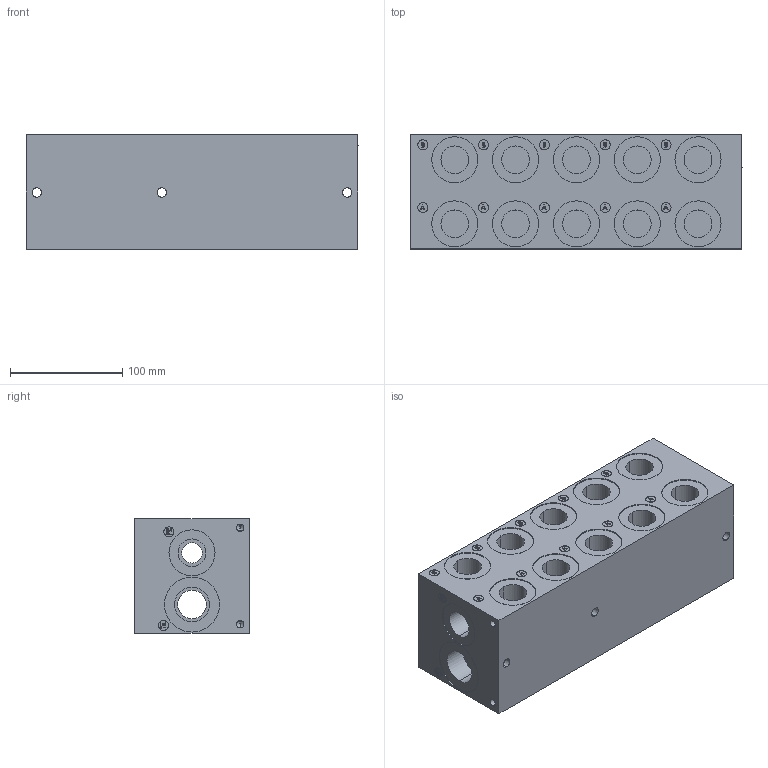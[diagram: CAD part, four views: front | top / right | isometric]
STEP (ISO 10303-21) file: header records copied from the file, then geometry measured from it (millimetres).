
FILE_DESCRIPTION (( 'STEP AP203' ), '1' );
FILE_NAME ('BMR-AHP03S2-05-1_Z.STEP', '2015-01-06T15:23:18', ( '' ), ( '' ), 'SwSTEP 2.0', 'SolidWorks 2014', '' );
FILE_SCHEMA (( 'CONFIG_CONTROL_DESIGN' ));
Length unit declared in the file: inch
Products named in the file (1): BMR-AHP03S2-05-1_Z
Bounding box: 295.4 x 101.6 x 101.6 mm (x, y, z)
Volume: 2668314.1 mm3; surface area: 213494.5 mm2
Topology: 1 solids, 1 shells, 683 faces, 1639 edges, 1011 vertices
Faces by surface type: plane 282, cylinder 238, cone 98, bspline 65
Entity records: 22872 total; most frequent: CARTESIAN_POINT 7405, DIRECTION 3125, ORIENTED_EDGE 3082, EDGE_CURVE 1541, AXIS2_PLACEMENT_3D 1095, VERTEX_POINT 1011, LINE 935, VECTOR 935
